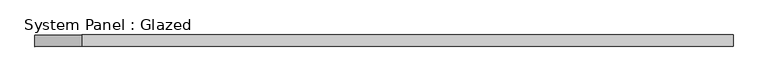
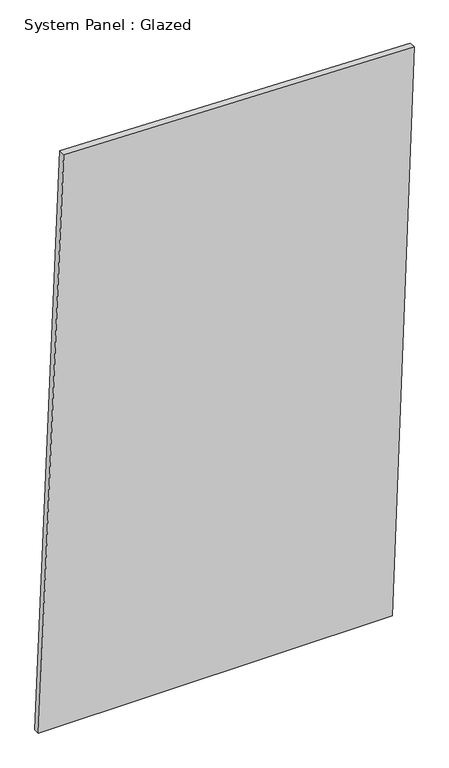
"""IFC4 building model written with IfcOpenShell, lengths in millimetres: plate geometry, System Panel : Glazed."""

from ifc_helpers import new_model, si_unit, frame, origin, place, context, project, spatial, polyline, outline, extrude, source, transform, mapped, element, save


def system_panel_glazed_84d2a35a(model_context):
    return source(origin(), model_context, "Body", "SweptSolid", [
        extrude(outline(polyline([(0.0, -758.3223976), (0.0, 669.9899702), (2399.4218021, 758.3223976), (2434.5381012, -657.1103665), (0.0, -758.3223976)])), frame((0.0, -49.5, 0.0), z_axis=(0.0, 1.0, 0.0), x_axis=(0.0, 0.0, 1.0)), (0.0, 0.0, 1.0), 25.0),
    ])


if __name__ == "__main__":
    model = new_model("IFC4")
    model_context = context("Model", 3, world=origin())
    ifc_project = project(units=[si_unit("LENGTHUNIT", "METRE", prefix="MILLI")], contexts=[model_context])
    site = spatial("IfcSite", under=ifc_project)
    building = spatial("IfcBuilding", under=site)
    placement = place(None, origin())
    system_panel_glazed_shape = system_panel_glazed_84d2a35a(model_context)
    element("IfcPlate", 1, ObjectType="System Panel : Glazed", at=placement, inside=building, context=model_context, shape_type="MappedRepresentation", body=[
        mapped(system_panel_glazed_shape, transform((0.0, 0.0, 0.0), x_axis=(1.0, 0.0, 0.0), y_axis=(0.0, 1.0, 0.0), z_axis=(0.0, 0.0, 1.0))),
    ])
    save(model, "model.ifc")
